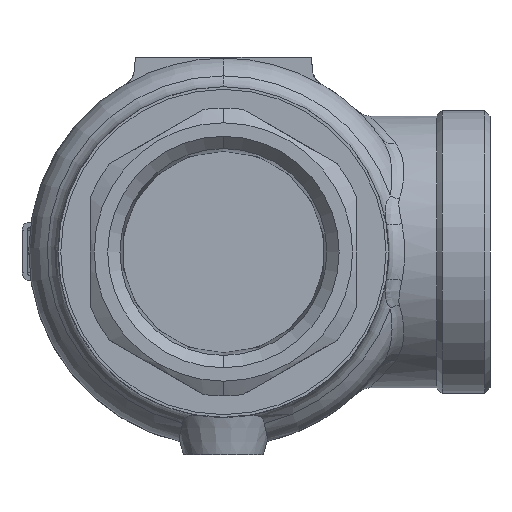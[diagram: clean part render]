
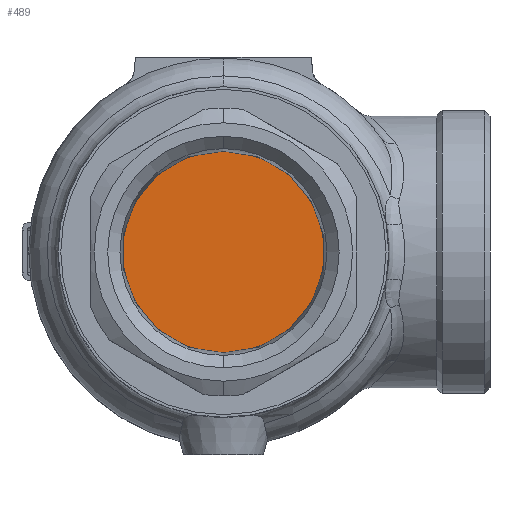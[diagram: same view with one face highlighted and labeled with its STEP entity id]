
A CAD part, front view. The second image highlights one B-rep face of the part: STEP entity #489.
In plain terms, the highlighted planar face has unit normal (0, -1, 0).
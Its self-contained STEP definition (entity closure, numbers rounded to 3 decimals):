
#59 = DIRECTION ( 'NONE',  ( 0., 0., 1. ) ) ;
#378 = DIRECTION ( 'NONE',  ( 0., 0., 1. ) ) ;
#489 = ADVANCED_FACE ( 'NONE', ( #2313 ), #5576, .F. ) ;
#763 = AXIS2_PLACEMENT_3D ( 'NONE', #2885, #2508, #59 ) ;
#807 = EDGE_CURVE ( 'NONE', #3877, #2363, #3687, .T. ) ;
#971 = ORIENTED_EDGE ( 'NONE', *, *, #807, .F. ) ;
#1853 = CARTESIAN_POINT ( 'NONE',  ( -18.9, -43., 0. ) ) ;
#2121 = CARTESIAN_POINT ( 'NONE',  ( 0., -43., -18.9 ) ) ;
#2281 = DIRECTION ( 'NONE',  ( 0., 1., 0. ) ) ;
#2313 = FACE_OUTER_BOUND ( 'NONE', #4498, .T. ) ;
#2341 = ORIENTED_EDGE ( 'NONE', *, *, #5396, .F. ) ;
#2363 = VERTEX_POINT ( 'NONE', #2121 ) ;
#2508 = DIRECTION ( 'NONE',  ( 0., 1., 0. ) ) ;
#2764 = DIRECTION ( 'NONE',  ( 0., 0., 1. ) ) ;
#2885 = CARTESIAN_POINT ( 'NONE',  ( 0., -43., 0. ) ) ;
#3127 = CARTESIAN_POINT ( 'NONE',  ( 0., -43., 0. ) ) ;
#3423 = CIRCLE ( 'NONE', #763, 18.9 ) ;
#3687 = CIRCLE ( 'NONE', #4475, 18.9 ) ;
#3877 = VERTEX_POINT ( 'NONE', #4978 ) ;
#4475 = AXIS2_PLACEMENT_3D ( 'NONE', #3127, #2281, #378 ) ;
#4498 = EDGE_LOOP ( 'NONE', ( #2341, #971 ) ) ;
#4978 = CARTESIAN_POINT ( 'NONE',  ( 0., -43., 18.9 ) ) ;
#5396 = EDGE_CURVE ( 'NONE', #2363, #3877, #3423, .T. ) ;
#5576 = PLANE ( 'NONE',  #5691 ) ;
#5652 = DIRECTION ( 'NONE',  ( 0., 1., 0. ) ) ;
#5691 = AXIS2_PLACEMENT_3D ( 'NONE', #1853, #5652, #2764 ) ;
